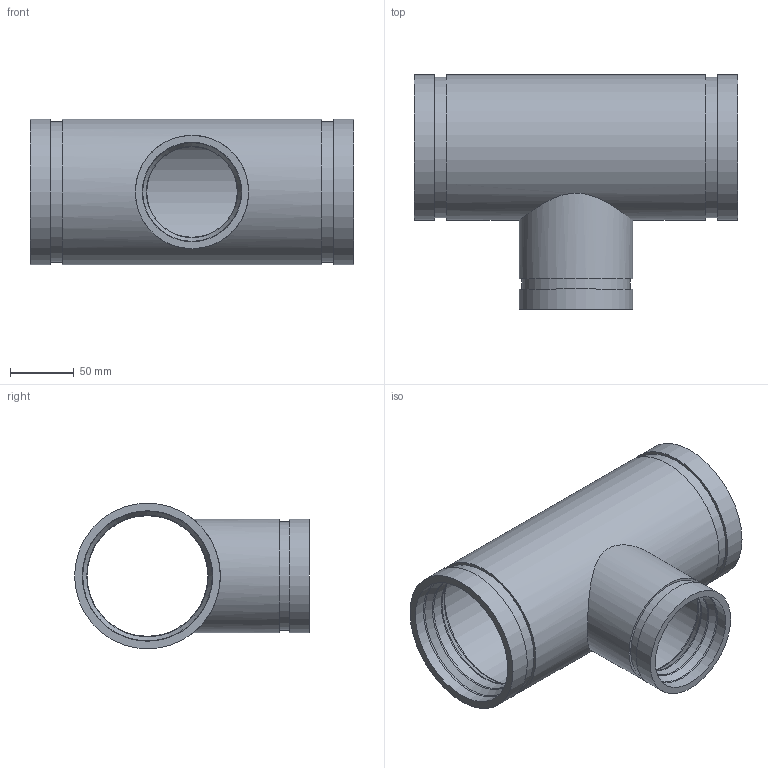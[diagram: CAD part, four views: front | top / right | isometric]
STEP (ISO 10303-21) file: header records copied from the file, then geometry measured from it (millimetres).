
FILE_DESCRIPTION(/* description */ ('VIC REDUCING TEE No 425H-SS','CAx-IF Rec.Pracs.---Representation and Presentation of Product Manufacturing Information (PMI)---4.0---2014-10-13'),/* implementation_level */ '2;1');
FILE_NAME(/* name */ 'C:\Users\kkamble\AppData\Roaming\Autodesk\ApplicationPlugins\Back Up\Victaulic_SS-OGS_Tee Reducing_Sched 40S_No 425H SS (OGS)\Victaulic_SS-OGS_Tee Reducing_Sched 40S_No 425H SS (OGS)_04.0x03.0 (100x80).stp',/* time_stamp */ '2020-08-27T17:19:57+06:00',/* author */ ('CORINNE GRAY'),/* organization */ ('Victaulic'),/* preprocessor_version */ 'ST-DEVELOPER v17.2',/* originating_system */ 'Autodesk Inventor 2019',/* authorisation */ '');
FILE_SCHEMA (('AP242_MANAGED_MODEL_BASED_3D_ENGINEERING_MIM_LF { 1 0 10303 442 1 1 4 }'));
Length unit declared in the file: inch
Products named in the file (1): 425H SS-04.0x03.0
Bounding box: 254 x 184.15 x 114.3 mm (x, y, z)
Volume: 628966.2 mm3; surface area: 213552.6 mm2
Topology: 1 solids, 1 shells, 43 faces, 134 edges, 100 vertices
Faces by surface type: cylinder 16, torus 12, plane 9, cone 6
Full cylindrical faces by diameter (mm): 71.018 x1, 77.978 x2, 84.938 x1, 88.9 x2, 94.64 x2, 102.362 x3, 110.084 x2, 114.3 x3
Entity records: 1919 total; most frequent: CARTESIAN_POINT 427, DIRECTION 352, ORIENTED_EDGE 268, AXIS2_PLACEMENT_3D 165, EDGE_CURVE 134, CIRCLE 108, VERTEX_POINT 100, EDGE_LOOP 54
